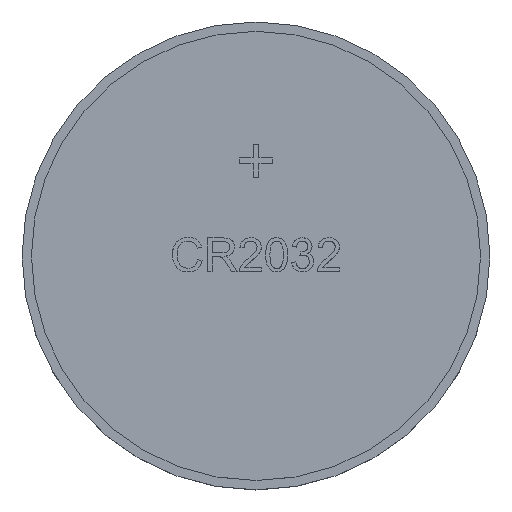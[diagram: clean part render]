
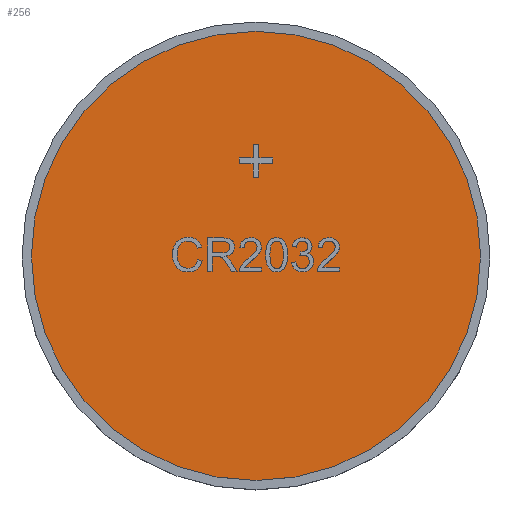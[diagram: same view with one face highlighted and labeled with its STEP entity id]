
A CAD part, top view. The second image highlights one B-rep face of the part: STEP entity #256.
In plain terms, the highlighted planar face has unit normal (0, 0, 1).
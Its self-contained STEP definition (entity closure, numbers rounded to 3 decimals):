
#171 = VERTEX_POINT('',#172);
#172 = CARTESIAN_POINT('',(9.6,0.,3.2));
#179 = CYLINDRICAL_SURFACE('',#180,9.6);
#180 = AXIS2_PLACEMENT_3D('',#181,#182,#183);
#181 = CARTESIAN_POINT('',(0.,0.,3.05));
#182 = DIRECTION('',(-0.,-0.,-1.));
#183 = DIRECTION('',(1.,0.,0.));
#198 = EDGE_CURVE('',#171,#171,#199,.T.);
#199 = SURFACE_CURVE('',#200,(#205,#212),.PCURVE_S1.);
#200 = CIRCLE('',#201,9.6);
#201 = AXIS2_PLACEMENT_3D('',#202,#203,#204);
#202 = CARTESIAN_POINT('',(0.,0.,3.2));
#203 = DIRECTION('',(0.,0.,1.));
#204 = DIRECTION('',(1.,0.,0.));
#205 = PCURVE('',#179,#206);
#206 = DEFINITIONAL_REPRESENTATION('',(#207),#211);
#207 = LINE('',#208,#209);
#208 = CARTESIAN_POINT('',(-0.,-0.15));
#209 = VECTOR('',#210,1.);
#210 = DIRECTION('',(-1.,0.));
#211 = ( GEOMETRIC_REPRESENTATION_CONTEXT(2) 
PARAMETRIC_REPRESENTATION_CONTEXT() REPRESENTATION_CONTEXT('2D SPACE',''
  ) );
#212 = PCURVE('',#213,#218);
#213 = PLANE('',#214);
#214 = AXIS2_PLACEMENT_3D('',#215,#216,#217);
#215 = CARTESIAN_POINT('',(0.,0.,3.2));
#216 = DIRECTION('',(0.,0.,1.));
#217 = DIRECTION('',(1.,0.,-0.));
#218 = DEFINITIONAL_REPRESENTATION('',(#219),#223);
#219 = CIRCLE('',#220,9.6);
#220 = AXIS2_PLACEMENT_2D('',#221,#222);
#221 = CARTESIAN_POINT('',(0.,0.));
#222 = DIRECTION('',(1.,0.));
#223 = ( GEOMETRIC_REPRESENTATION_CONTEXT(2) 
PARAMETRIC_REPRESENTATION_CONTEXT() REPRESENTATION_CONTEXT('2D SPACE',''
  ) );
#256 = ADVANCED_FACE('',(#257),#213,.T.);
#257 = FACE_BOUND('',#258,.T.);
#258 = EDGE_LOOP('',(#259));
#259 = ORIENTED_EDGE('',*,*,#198,.T.);
